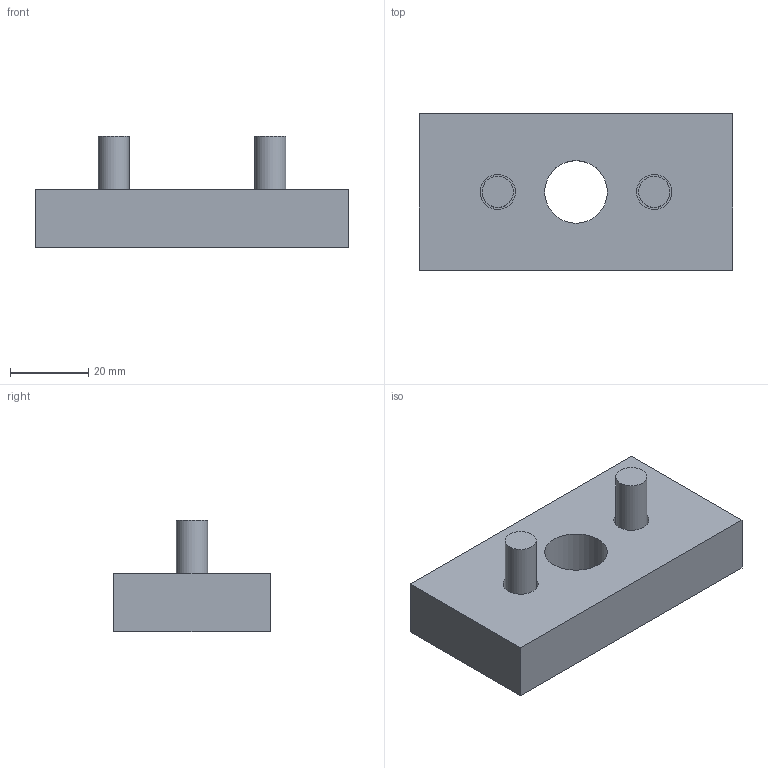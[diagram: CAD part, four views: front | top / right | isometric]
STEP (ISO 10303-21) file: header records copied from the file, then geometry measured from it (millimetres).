
FILE_DESCRIPTION((''),'2;1');
FILE_NAME('C:\Documents and Settings\古川典政\My Documents\Inventor\HP用\MasterData\ACCESSORY\M8\LFA-4080-8.stp','2008-08-05T16:55:59',(''),(''),'Autodesk Inventor 2008','Autodesk Inventor 2008','');
FILE_SCHEMA(('CONFIG_CONTROL_DESIGN'));
Length unit declared in the file: millimetre
Products named in the file (4): LFA-4080-8; LFA-4080-81; LFA-4080-82; LFA-4080-83
Assembly tree (3 placements, depth 2):
  LFA-4080-8
    LFA-4080-81
    LFA-4080-82
    LFA-4080-83
Bounding box: 80 x 40 x 28.6 mm (x, y, z)
Volume: 45657.6 mm3; surface area: 13405.2 mm2
Topology: 3 solids, 3 shells, 23 faces, 40 edges, 27 vertices
Faces by surface type: plane 13, cylinder 6, bspline 4
Full cylindrical faces by diameter (mm): 8 x2, 9 x1, 13 x2, 14 x1
Entity records: 658 total; most frequent: CARTESIAN_POINT 140, DIRECTION 100, ORIENTED_EDGE 60, AXIS2_PLACEMENT_3D 44, EDGE_LOOP 42, EDGE_CURVE 30, VERTEX_POINT 26, FACE_OUTER_BOUND 23
